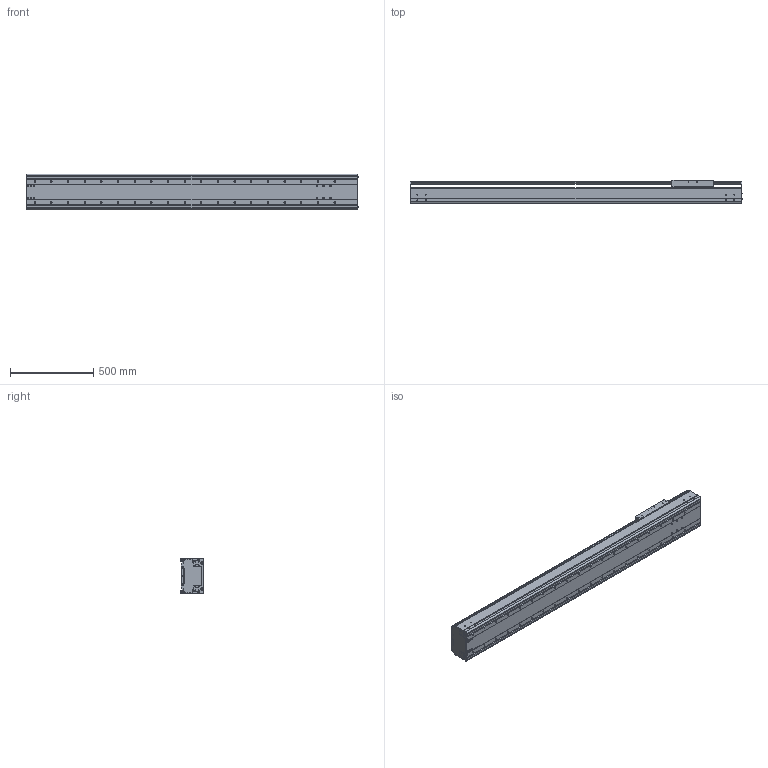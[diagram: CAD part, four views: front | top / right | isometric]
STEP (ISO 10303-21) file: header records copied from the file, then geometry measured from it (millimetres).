
FILE_DESCRIPTION((''),'2;1');
FILE_NAME('BE60J-ST-M_N-F0_IGS_PRT','2017-06-18T',(' '),(''),'PRO/ENGINEER BY PARAMETRIC TECHNOLOGY CORPORATION, 2015030','PRO/ENGINEER BY PARAMETRIC TECHNOLOGY CORPORATION, 2015030','');
FILE_SCHEMA(('CONFIG_CONTROL_DESIGN'));
Length unit declared in the file: millimetre
Products named in the file (1): BE60J-ST-M_N-F0_IGS_PRT
Bounding box: 1992.4 x 140 x 214 mm (x, y, z)
Volume: 15044837.1 mm3; surface area: 4126912.1 mm2
Topology: 2 solids, 132 shells, 1557 faces, 4414 edges, 2960 vertices
Faces by surface type: cylinder 830, plane 627, cone 52, sphere 24, torus 24
Entity records: 52989 total; most frequent: CARTESIAN_POINT 12068, DIRECTION 8492, ORIENTED_EDGE 8220, EDGE_CURVE 4366, AXIS2_PLACEMENT_3D 3182, VERTEX_POINT 2960, VECTOR 2128, LINE 2128
